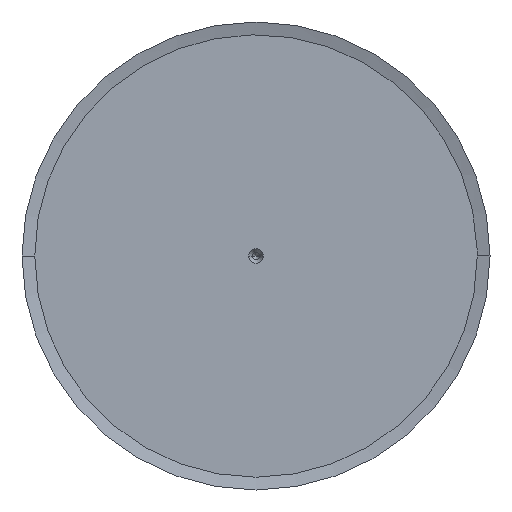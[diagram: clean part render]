
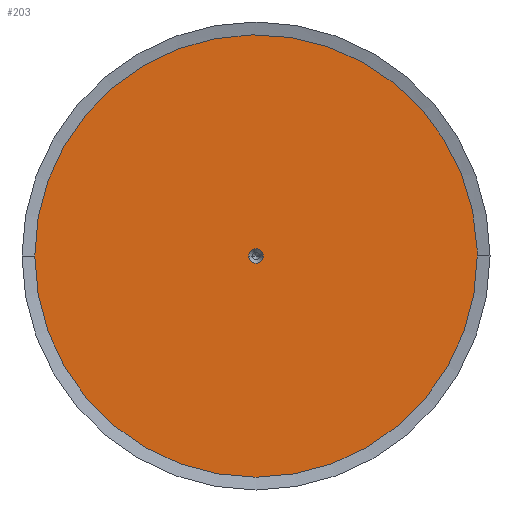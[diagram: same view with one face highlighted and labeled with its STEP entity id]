
A CAD part, left-side view. The second image highlights one B-rep face of the part: STEP entity #203.
In plain terms, the highlighted planar face has unit normal (-1, 0, 0).
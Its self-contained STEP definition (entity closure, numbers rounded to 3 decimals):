
#203=ADVANCED_FACE('',(#590,#591),#592,.T.);
#590=FACE_BOUND('',#1047,.T.);
#591=FACE_OUTER_BOUND('',#1048,.T.);
#592=PLANE('',#1049);
#1047=EDGE_LOOP('',(#2628,#2629));
#1048=EDGE_LOOP('',(#2630,#2631,#2632));
#1049=AXIS2_PLACEMENT_3D('',#2633,#2634,#2635);
#2628=ORIENTED_EDGE('',*,*,#3330,.T.);
#2629=ORIENTED_EDGE('',*,*,#3343,.T.);
#2630=ORIENTED_EDGE('',*,*,#3759,.F.);
#2631=ORIENTED_EDGE('',*,*,#3758,.F.);
#2632=ORIENTED_EDGE('',*,*,#3184,.F.);
#2633=CARTESIAN_POINT('',(0.0,0.0,0.0));
#2634=DIRECTION('',(-1.0,0.0,0.0));
#2635=DIRECTION('',(0.0,0.0,1.0));
#3184=EDGE_CURVE('',#3842,#3839,#3844,.T.);
#3330=EDGE_CURVE('',#4124,#4126,#4128,.T.);
#3343=EDGE_CURVE('',#4126,#4124,#4148,.T.);
#3758=EDGE_CURVE('',#3839,#4842,#4843,.T.);
#3759=EDGE_CURVE('',#4842,#3842,#4844,.T.);
#3839=VERTEX_POINT('',#4927);
#3842=VERTEX_POINT('',#4931);
#3844=CIRCLE('',#4934,60.5);
#4124=VERTEX_POINT('',#5622);
#4126=VERTEX_POINT('',#5625);
#4128=CIRCLE('',#5628,2.0);
#4148=CIRCLE('',#5654,2.0);
#4842=VERTEX_POINT('',#6811);
#4843=CIRCLE('',#6812,60.5);
#4844=CIRCLE('',#6813,60.5);
#4927=CARTESIAN_POINT('',(0.0,60.5,0.));
#4931=CARTESIAN_POINT('',(0.0,-60.5,0.));
#4934=AXIS2_PLACEMENT_3D('',#6968,#6969,#6970);
#5622=CARTESIAN_POINT('',(0.0,2.0,0.0));
#5625=CARTESIAN_POINT('',(0.0,-2.0,0.));
#5628=AXIS2_PLACEMENT_3D('',#7202,#7203,#7204);
#5654=AXIS2_PLACEMENT_3D('',#7229,#7230,#7231);
#6811=CARTESIAN_POINT('',(0.0,-60.467,1.997));
#6812=AXIS2_PLACEMENT_3D('',#8164,#8165,#8166);
#6813=AXIS2_PLACEMENT_3D('',#8167,#8168,#8169);
#6968=CARTESIAN_POINT('',(0.0,0.0,0.0));
#6969=DIRECTION('',(1.0,0.0,0.0));
#6970=DIRECTION('',(0.0,1.0,0.0));
#7202=CARTESIAN_POINT('',(0.0,0.0,0.0));
#7203=DIRECTION('',(1.0,0.0,0.0));
#7204=DIRECTION('',(0.0,1.0,0.0));
#7229=CARTESIAN_POINT('',(0.0,0.0,0.0));
#7230=DIRECTION('',(1.0,0.0,0.0));
#7231=DIRECTION('',(0.0,1.0,0.0));
#8164=CARTESIAN_POINT('',(0.0,0.0,0.0));
#8165=DIRECTION('',(1.0,0.0,0.0));
#8166=DIRECTION('',(0.0,1.0,0.0));
#8167=CARTESIAN_POINT('',(0.0,0.0,0.0));
#8168=DIRECTION('',(1.0,0.0,0.0));
#8169=DIRECTION('',(0.0,1.0,0.0));
